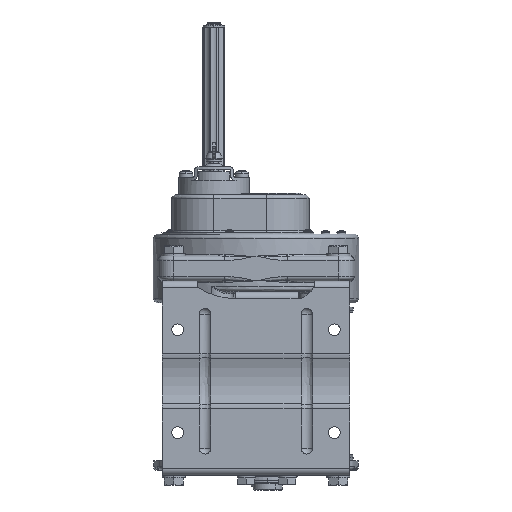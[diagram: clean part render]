
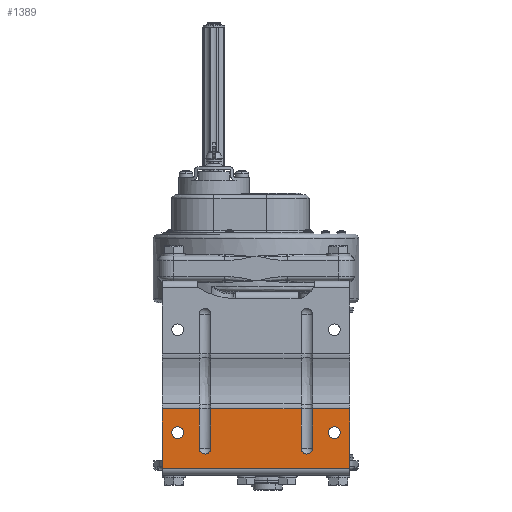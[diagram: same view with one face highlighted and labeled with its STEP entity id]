
A CAD part, front view. The second image highlights one B-rep face of the part: STEP entity #1389.
In plain terms, the highlighted planar face has unit normal (0, -1, 0).
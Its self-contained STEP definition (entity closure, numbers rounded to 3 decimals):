
#1389=ADVANCED_FACE('',(#15765,#15766,#15767),#15764,.T.);
#15764=PLANE('',#40377);
#15765=FACE_OUTER_BOUND('',#40378,.T.);
#15766=FACE_BOUND('',#40379,.T.);
#15767=FACE_BOUND('',#40380,.T.);
#40374=CARTESIAN_POINT('',(11.,-36.383,-223.2));
#40375=DIRECTION('',(0.,-1.,0.));
#40376=DIRECTION('',(0.,0.,1.));
#40377=AXIS2_PLACEMENT_3D('',#40374,#40375,#40376);
#40378=EDGE_LOOP('',(#60471,#60472,#60473,#60474,#60475,#60476,#60477,#60478,#60479,#60480,#60481,#60482));
#40379=EDGE_LOOP('',(#60483,#60484));
#40380=EDGE_LOOP('',(#60485,#60486));
#60471=ORIENTED_EDGE('',*,*,#72529,.T.);
#60472=ORIENTED_EDGE('',*,*,#72528,.F.);
#60473=ORIENTED_EDGE('',*,*,#70337,.T.);
#60474=ORIENTED_EDGE('',*,*,#72527,.T.);
#60475=ORIENTED_EDGE('',*,*,#72530,.T.);
#60476=ORIENTED_EDGE('',*,*,#72531,.F.);
#60477=ORIENTED_EDGE('',*,*,#70322,.F.);
#60478=ORIENTED_EDGE('',*,*,#72532,.T.);
#60479=ORIENTED_EDGE('',*,*,#72533,.T.);
#60480=ORIENTED_EDGE('',*,*,#69047,.F.);
#60481=ORIENTED_EDGE('',*,*,#72534,.F.);
#60482=ORIENTED_EDGE('',*,*,#69040,.T.);
#60483=ORIENTED_EDGE('',*,*,#72535,.F.);
#60484=ORIENTED_EDGE('',*,*,#72536,.F.);
#60485=ORIENTED_EDGE('',*,*,#72537,.F.);
#60486=ORIENTED_EDGE('',*,*,#72538,.F.);
#69040=EDGE_CURVE('',#78591,#78584,#78592,.T.);
#69047=EDGE_CURVE('',#78633,#78640,#78641,.T.);
#70322=EDGE_CURVE('',#87173,#87181,#87182,.T.);
#70337=EDGE_CURVE('',#87284,#87276,#87285,.T.);
#72527=EDGE_CURVE('',#87276,#87318,#101873,.T.);
#72528=EDGE_CURVE('',#87284,#87317,#101879,.T.);
#72529=EDGE_CURVE('',#78584,#87317,#101885,.T.);
#72530=EDGE_CURVE('',#87318,#87297,#101891,.T.);
#72531=EDGE_CURVE('',#87181,#87297,#101897,.T.);
#72532=EDGE_CURVE('',#87173,#87298,#101903,.T.);
#72533=EDGE_CURVE('',#87298,#78640,#101909,.T.);
#72534=EDGE_CURVE('',#78591,#78633,#101915,.T.);
#72535=EDGE_CURVE('',#101921,#101922,#101923,.T.);
#72536=EDGE_CURVE('',#101922,#101921,#101929,.T.);
#72537=EDGE_CURVE('',#101935,#101936,#101937,.T.);
#72538=EDGE_CURVE('',#101936,#101935,#101943,.T.);
#78584=VERTEX_POINT('',#125339);
#78591=VERTEX_POINT('',#125344);
#78592=LINE('',#125345,#125346);
#78633=VERTEX_POINT('',#125369);
#78640=VERTEX_POINT('',#125374);
#78641=LINE('',#125375,#125376);
#87173=VERTEX_POINT('',#131748);
#87181=VERTEX_POINT('',#131754);
#87182=CIRCLE('',#131758,6.);
#87276=VERTEX_POINT('',#131817);
#87284=VERTEX_POINT('',#131823);
#87285=CIRCLE('',#131827,6.);
#87297=VERTEX_POINT('',#131832);
#87298=VERTEX_POINT('',#131833);
#87317=VERTEX_POINT('',#131846);
#87318=VERTEX_POINT('',#131847);
#101873=LINE('',#140861,#140862);
#101879=LINE('',#140864,#140865);
#101885=LINE('',#140867,#140868);
#101891=LINE('',#140870,#140871);
#101897=LINE('',#140873,#140874);
#101903=LINE('',#140876,#140877);
#101909=LINE('',#140879,#140880);
#101915=LINE('',#140882,#140883);
#101921=VERTEX_POINT('',#140885);
#101922=VERTEX_POINT('',#140886);
#101923=CIRCLE('',#140890,6.);
#101929=CIRCLE('',#140894,6.);
#101935=VERTEX_POINT('',#140895);
#101936=VERTEX_POINT('',#140896);
#101937=CIRCLE('',#140900,6.);
#101943=CIRCLE('',#140904,6.);
#125339=CARTESIAN_POINT('',(1.,-36.383,-156.096));
#125344=CARTESIAN_POINT('',(1.,-36.383,-217.1));
#125345=CARTESIAN_POINT('',(1.,-36.383,-217.1));
#125346=VECTOR('',#125347,61.004);
#125347=DIRECTION('',(0.,0.,1.));
#125369=CARTESIAN_POINT('',(-191.,-36.383,-217.1));
#125374=CARTESIAN_POINT('',(-191.,-36.383,-156.096));
#125375=CARTESIAN_POINT('',(-191.,-36.383,-217.1));
#125376=VECTOR('',#125377,61.004);
#125377=DIRECTION('',(0.,0.,1.));
#131748=CARTESIAN_POINT('',(-153.,-36.383,-196.302));
#131754=CARTESIAN_POINT('',(-141.,-36.383,-196.302));
#131755=CARTESIAN_POINT('',(-147.,-36.383,-196.302));
#131756=DIRECTION('',(0.,-1.,0.));
#131757=DIRECTION('',(1.,0.,0.));
#131758=AXIS2_PLACEMENT_3D('',#131755,#131756,#131757);
#131817=CARTESIAN_POINT('',(-49.,-36.383,-196.302));
#131823=CARTESIAN_POINT('',(-37.,-36.383,-196.302));
#131824=CARTESIAN_POINT('',(-43.,-36.383,-196.302));
#131825=DIRECTION('',(0.,1.,0.));
#131826=DIRECTION('',(1.,0.,0.));
#131827=AXIS2_PLACEMENT_3D('',#131824,#131825,#131826);
#131832=CARTESIAN_POINT('',(-141.,-36.383,-156.096));
#131833=CARTESIAN_POINT('',(-153.,-36.383,-156.096));
#131846=CARTESIAN_POINT('',(-37.,-36.383,-156.096));
#131847=CARTESIAN_POINT('',(-49.,-36.383,-156.096));
#140861=CARTESIAN_POINT('',(-49.,-36.383,-196.302));
#140862=VECTOR('',#140863,40.206);
#140863=DIRECTION('',(0.,0.,1.));
#140864=CARTESIAN_POINT('',(-37.,-36.383,-196.302));
#140865=VECTOR('',#140866,40.206);
#140866=DIRECTION('',(0.,0.,1.));
#140867=CARTESIAN_POINT('',(1.,-36.383,-156.096));
#140868=VECTOR('',#140869,38.);
#140869=DIRECTION('',(-1.,0.,0.));
#140870=CARTESIAN_POINT('',(-49.,-36.383,-156.096));
#140871=VECTOR('',#140872,92.);
#140872=DIRECTION('',(-1.,0.,0.));
#140873=CARTESIAN_POINT('',(-141.,-36.383,-196.302));
#140874=VECTOR('',#140875,40.206);
#140875=DIRECTION('',(0.,0.,1.));
#140876=CARTESIAN_POINT('',(-153.,-36.383,-196.302));
#140877=VECTOR('',#140878,40.206);
#140878=DIRECTION('',(0.,0.,1.));
#140879=CARTESIAN_POINT('',(-153.,-36.383,-156.096));
#140880=VECTOR('',#140881,38.);
#140881=DIRECTION('',(-1.,0.,0.));
#140882=CARTESIAN_POINT('',(1.,-36.383,-217.1));
#140883=VECTOR('',#140884,192.);
#140884=DIRECTION('',(-1.,0.,0.));
#140885=CARTESIAN_POINT('',(-15.,-36.383,-186.4));
#140886=CARTESIAN_POINT('',(-15.,-36.383,-174.4));
#140887=CARTESIAN_POINT('',(-15.,-36.383,-180.4));
#140888=DIRECTION('',(0.,-1.,0.));
#140889=DIRECTION('',(0.,0.,1.));
#140890=AXIS2_PLACEMENT_3D('',#140887,#140888,#140889);
#140891=CARTESIAN_POINT('',(-15.,-36.383,-180.4));
#140892=DIRECTION('',(0.,-1.,0.));
#140893=DIRECTION('',(0.,0.,1.));
#140894=AXIS2_PLACEMENT_3D('',#140891,#140892,#140893);
#140895=CARTESIAN_POINT('',(-175.,-36.383,-186.4));
#140896=CARTESIAN_POINT('',(-175.,-36.383,-174.4));
#140897=CARTESIAN_POINT('',(-175.,-36.383,-180.4));
#140898=DIRECTION('',(0.,-1.,0.));
#140899=DIRECTION('',(0.,0.,1.));
#140900=AXIS2_PLACEMENT_3D('',#140897,#140898,#140899);
#140901=CARTESIAN_POINT('',(-175.,-36.383,-180.4));
#140902=DIRECTION('',(0.,-1.,0.));
#140903=DIRECTION('',(0.,0.,1.));
#140904=AXIS2_PLACEMENT_3D('',#140901,#140902,#140903);
